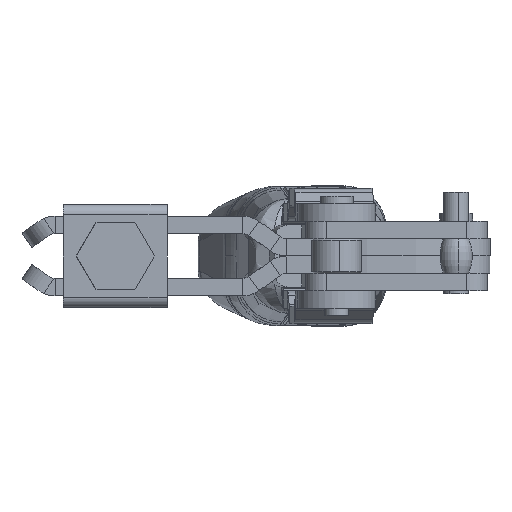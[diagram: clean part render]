
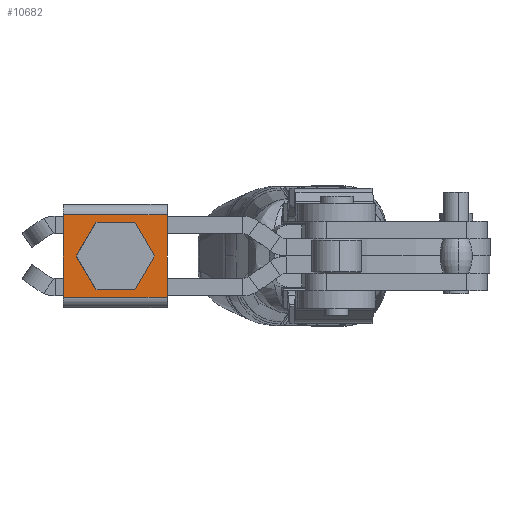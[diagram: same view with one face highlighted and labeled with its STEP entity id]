
A CAD part, front view. The second image highlights one B-rep face of the part: STEP entity #10682.
In plain terms, the highlighted planar face has unit normal (0.002, -1, 0) as drawn and (0, 1, 0) by its records, which use the part's own axes.
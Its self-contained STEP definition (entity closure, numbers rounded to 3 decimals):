
#623 = CARTESIAN_POINT ( 'NONE',  ( 7.9, 7., 10. ) ) ;
#637 = DIRECTION ( 'NONE',  ( 0., 1., 0. ) ) ;
#1140 = VERTEX_POINT ( 'NONE', #21105 ) ;
#1221 = DIRECTION ( 'NONE',  ( 0., 0., -1. ) ) ;
#1324 = CARTESIAN_POINT ( 'NONE',  ( 7.9, 7., 10. ) ) ;
#1829 = LINE ( 'NONE', #1324, #11038 ) ;
#2253 = LINE ( 'NONE', #15963, #18972 ) ;
#2310 = EDGE_CURVE ( 'NONE', #1140, #21280, #20849, .T. ) ;
#2462 = VERTEX_POINT ( 'NONE', #5831 ) ;
#2737 = ORIENTED_EDGE ( 'NONE', *, *, #15802, .F. ) ;
#3119 = EDGE_CURVE ( 'NONE', #2462, #18316, #18464, .T. ) ;
#3467 = FACE_BOUND ( 'NONE', #4297, .T. ) ;
#3834 = PLANE ( 'NONE',  #9398 ) ;
#3913 = DIRECTION ( 'NONE',  ( 0., 0., 1. ) ) ;
#4297 = EDGE_LOOP ( 'NONE', ( #23179, #17166 ) ) ;
#4328 = CARTESIAN_POINT ( 'NONE',  ( -7.9, 7., -10. ) ) ;
#4350 = VECTOR ( 'NONE', #18791, 1000. ) ;
#5074 = ORIENTED_EDGE ( 'NONE', *, *, #6365, .T. ) ;
#5824 = DIRECTION ( 'NONE',  ( 0., 1., 0. ) ) ;
#5831 = CARTESIAN_POINT ( 'NONE',  ( -7.9, 7., 10. ) ) ;
#6118 = ORIENTED_EDGE ( 'NONE', *, *, #3119, .T. ) ;
#6365 = EDGE_CURVE ( 'NONE', #18316, #21802, #1829, .T. ) ;
#6944 = ORIENTED_EDGE ( 'NONE', *, *, #12885, .F. ) ;
#7352 = CARTESIAN_POINT ( 'NONE',  ( 7.9, 7., -10. ) ) ;
#7380 = CARTESIAN_POINT ( 'NONE',  ( 0., 7., 4.25 ) ) ;
#8936 = FACE_OUTER_BOUND ( 'NONE', #18755, .T. ) ;
#9221 = VERTEX_POINT ( 'NONE', #4328 ) ;
#9272 = DIRECTION ( 'NONE',  ( 1., 0., 0. ) ) ;
#9398 = AXIS2_PLACEMENT_3D ( 'NONE', #11208, #14942, #3913 ) ;
#9875 = AXIS2_PLACEMENT_3D ( 'NONE', #11665, #637, #13528 ) ;
#10492 = DIRECTION ( 'NONE',  ( 0., 0., -1. ) ) ;
#10629 = AXIS2_PLACEMENT_3D ( 'NONE', #16865, #5824, #18717 ) ;
#10682 = ADVANCED_FACE ( 'NONE', ( #3467, #8936 ), #3834, .T. ) ;
#10692 = EDGE_CURVE ( 'NONE', #21280, #1140, #12670, .T. ) ;
#11038 = VECTOR ( 'NONE', #10492, 1000. ) ;
#11208 = CARTESIAN_POINT ( 'NONE',  ( -10., 7., 10. ) ) ;
#11665 = CARTESIAN_POINT ( 'NONE',  ( 0., 7., 0. ) ) ;
#12670 = CIRCLE ( 'NONE', #10629, 4.25 ) ;
#12885 = EDGE_CURVE ( 'NONE', #2462, #9221, #2253, .T. ) ;
#13528 = DIRECTION ( 'NONE',  ( 0., 0., 1. ) ) ;
#14942 = DIRECTION ( 'NONE',  ( 0., 1., 0. ) ) ;
#15090 = CARTESIAN_POINT ( 'NONE',  ( -10., 7., 10. ) ) ;
#15802 = EDGE_CURVE ( 'NONE', #9221, #21802, #22824, .T. ) ;
#15963 = CARTESIAN_POINT ( 'NONE',  ( -7.9, 7., 10. ) ) ;
#16865 = CARTESIAN_POINT ( 'NONE',  ( 0., 7., 0. ) ) ;
#17166 = ORIENTED_EDGE ( 'NONE', *, *, #2310, .F. ) ;
#17884 = VECTOR ( 'NONE', #9272, 1000. ) ;
#18316 = VERTEX_POINT ( 'NONE', #623 ) ;
#18464 = LINE ( 'NONE', #15090, #4350 ) ;
#18717 = DIRECTION ( 'NONE',  ( 0., 0., 1. ) ) ;
#18755 = EDGE_LOOP ( 'NONE', ( #2737, #6944, #6118, #5074 ) ) ;
#18791 = DIRECTION ( 'NONE',  ( 1., 0., 0. ) ) ;
#18972 = VECTOR ( 'NONE', #1221, 1000. ) ;
#20350 = CARTESIAN_POINT ( 'NONE',  ( -10., 7., -10. ) ) ;
#20849 = CIRCLE ( 'NONE', #9875, 4.25 ) ;
#21105 = CARTESIAN_POINT ( 'NONE',  ( 0., 7., -4.25 ) ) ;
#21280 = VERTEX_POINT ( 'NONE', #7380 ) ;
#21802 = VERTEX_POINT ( 'NONE', #7352 ) ;
#22824 = LINE ( 'NONE', #20350, #17884 ) ;
#23179 = ORIENTED_EDGE ( 'NONE', *, *, #10692, .F. ) ;
